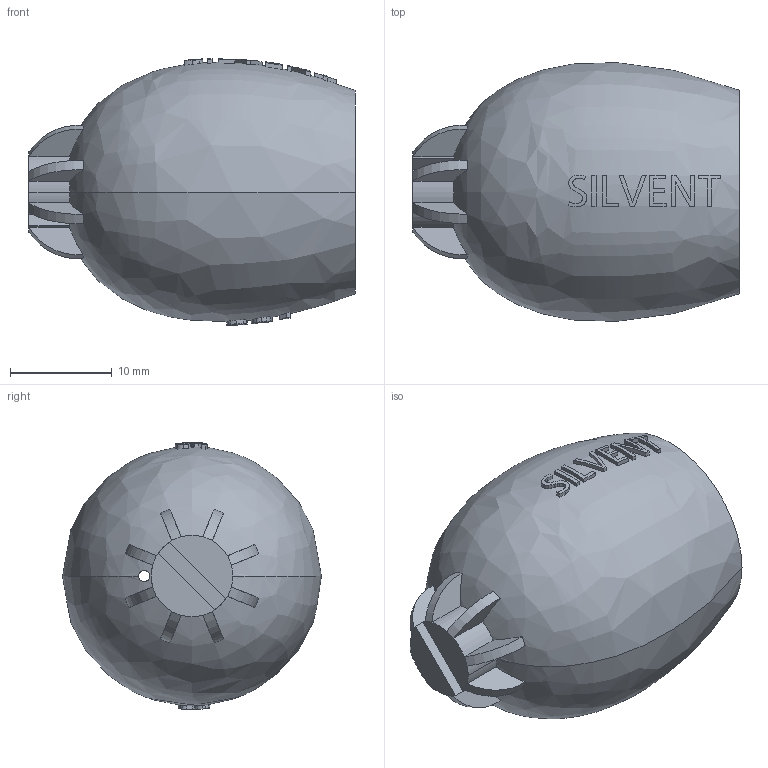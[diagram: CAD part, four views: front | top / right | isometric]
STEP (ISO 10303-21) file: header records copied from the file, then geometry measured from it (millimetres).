
FILE_DESCRIPTION (( 'STEP AP214' ), '1' );
FILE_NAME ('Silvent 801.STEP', '2013-08-27T10:15:58', ( 'silvstan' ), ( '' ), 'SwSTEP 2.0', 'SolidWorks 2011', '' );
FILE_SCHEMA (( 'AUTOMOTIVE_DESIGN' ));
Length unit declared in the file: millimetre
Products named in the file (1): Silvent 801
Bounding box: 32.09 x 25.45 x 26.24 mm (x, y, z)
Volume: 9509.6 mm3; surface area: 5456.1 mm2
Topology: 2 solids, 2 shells, 224 faces, 615 edges, 409 vertices
Faces by surface type: bspline 103, plane 84, cylinder 27, torus 10
Entity records: 12085 total; most frequent: CARTESIAN_POINT 4669, ORIENTED_EDGE 1230, DIRECTION 665, EDGE_CURVE 615, VERTEX_POINT 409, B_SPLINE_CURVE_WITH_KNOTS 297, EDGE_LOOP 242, UNCERTAINTY_MEASURE_WITH_UNIT 228
